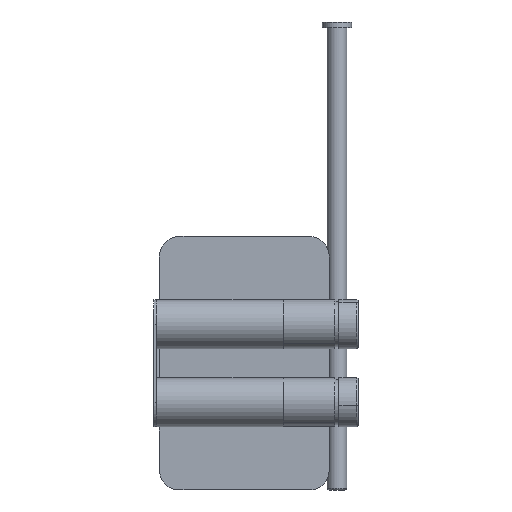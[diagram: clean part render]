
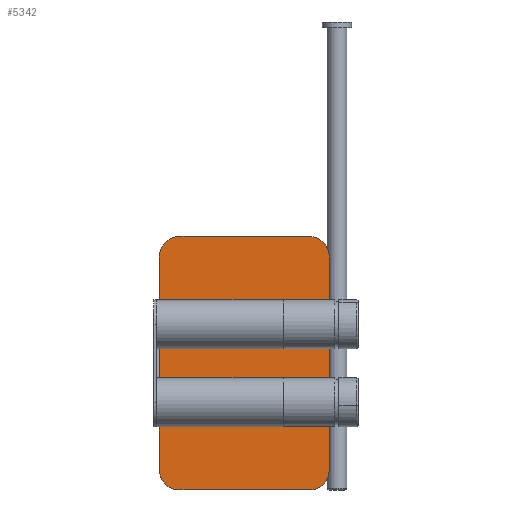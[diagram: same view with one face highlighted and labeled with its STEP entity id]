
A CAD part, front view. The second image highlights one B-rep face of the part: STEP entity #5342.
In plain terms, the highlighted planar face has unit normal (0, -1, 0).
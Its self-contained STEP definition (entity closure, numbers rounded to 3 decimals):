
#2 = DIRECTION ( 'NONE',  ( 0., 0., -1. ) ) ;
#606 = CARTESIAN_POINT ( 'NONE',  ( 100.397, -1.5, -87. ) ) ;
#791 = DIRECTION ( 'NONE',  ( 0., -1., 0. ) ) ;
#803 = DIRECTION ( 'NONE',  ( 0., -1., 0. ) ) ;
#877 = CIRCLE ( 'NONE', #8111, 10. ) ;
#901 = ORIENTED_EDGE ( 'NONE', *, *, #6050, .F. ) ;
#911 = CARTESIAN_POINT ( 'NONE',  ( 20., -1.5, 0. ) ) ;
#1089 = CARTESIAN_POINT ( 'NONE',  ( 130., -1.5, -10. ) ) ;
#1199 = CARTESIAN_POINT ( 'NONE',  ( 83.466, -1.5, -87. ) ) ;
#1309 = B_SPLINE_CURVE_WITH_KNOTS ( 'NONE', 3,
 ( #10938, #1199, #5231, #6180 ),
 .UNSPECIFIED., .F., .F.,
 ( 4, 4 ),
 ( 0., 1. ),
 .UNSPECIFIED. ) ;
#1626 = DIRECTION ( 'NONE',  ( 0., -1., 0. ) ) ;
#1660 = VERTEX_POINT ( 'NONE', #8381 ) ;
#1694 = CARTESIAN_POINT ( 'NONE',  ( 130., -1.5, -87. ) ) ;
#1706 = CARTESIAN_POINT ( 'NONE',  ( 0., -1.5, 0. ) ) ;
#1945 = DIRECTION ( 'NONE',  ( 0., 0., -1. ) ) ;
#2351 = ORIENTED_EDGE ( 'NONE', *, *, #8437, .T. ) ;
#2442 = ORIENTED_EDGE ( 'NONE', *, *, #10664, .F. ) ;
#2486 = CARTESIAN_POINT ( 'NONE',  ( 140., -1.5, -10. ) ) ;
#2774 = CARTESIAN_POINT ( 'NONE',  ( 10., -1.5, -87. ) ) ;
#2836 = LINE ( 'NONE', #2774, #6223 ) ;
#2925 = VERTEX_POINT ( 'NONE', #606 ) ;
#2968 = CARTESIAN_POINT ( 'NONE',  ( 140., -1.5, -77. ) ) ;
#3103 = EDGE_CURVE ( 'NONE', #9703, #9873, #12242, .T. ) ;
#3164 = VERTEX_POINT ( 'NONE', #5963 ) ;
#3314 = ORIENTED_EDGE ( 'NONE', *, *, #10106, .F. ) ;
#3568 = FACE_OUTER_BOUND ( 'NONE', #6073, .T. ) ;
#3703 = ORIENTED_EDGE ( 'NONE', *, *, #5527, .F. ) ;
#3757 = AXIS2_PLACEMENT_3D ( 'NONE', #3899, #803, #7859 ) ;
#3899 = CARTESIAN_POINT ( 'NONE',  ( 20., -1.5, -77. ) ) ;
#3944 = DIRECTION ( 'NONE',  ( 0., 0., -1. ) ) ;
#4409 = LINE ( 'NONE', #7452, #4567 ) ;
#4567 = VECTOR ( 'NONE', #7391, 1000. ) ;
#4621 = EDGE_CURVE ( 'NONE', #2925, #3164, #1309, .T. ) ;
#4625 = DIRECTION ( 'NONE',  ( 1., 0., 0. ) ) ;
#4724 = ORIENTED_EDGE ( 'NONE', *, *, #4621, .F. ) ;
#5166 = CARTESIAN_POINT ( 'NONE',  ( 20., -1.5, -87. ) ) ;
#5231 = CARTESIAN_POINT ( 'NONE',  ( 66.534, -1.5, -87. ) ) ;
#5342 = ADVANCED_FACE ( 'NONE', ( #3568 ), #7519, .T. ) ;
#5527 = EDGE_CURVE ( 'NONE', #9180, #11374, #11792, .T. ) ;
#5835 = DIRECTION ( 'NONE',  ( 0., -1., 0. ) ) ;
#5963 = CARTESIAN_POINT ( 'NONE',  ( 49.603, -1.5, -87. ) ) ;
#6050 = EDGE_CURVE ( 'NONE', #7628, #7970, #11558, .T. ) ;
#6073 = EDGE_LOOP ( 'NONE', ( #3314, #7881, #2442, #4724, #6837, #9900, #3703, #12805, #901, #2351 ) ) ;
#6180 = CARTESIAN_POINT ( 'NONE',  ( 49.603, -1.5, -87. ) ) ;
#6223 = VECTOR ( 'NONE', #6718, 1000. ) ;
#6313 = CARTESIAN_POINT ( 'NONE',  ( 10., -1.5, 0. ) ) ;
#6552 = CARTESIAN_POINT ( 'NONE',  ( 10., -1.5, -77. ) ) ;
#6718 = DIRECTION ( 'NONE',  ( -1., 0., 0. ) ) ;
#6753 = CARTESIAN_POINT ( 'NONE',  ( 130., -1.5, -77. ) ) ;
#6811 = DIRECTION ( 'NONE',  ( 0., 0., -1. ) ) ;
#6837 = ORIENTED_EDGE ( 'NONE', *, *, #6867, .F. ) ;
#6867 = EDGE_CURVE ( 'NONE', #7305, #2925, #4409, .T. ) ;
#6871 = CARTESIAN_POINT ( 'NONE',  ( 140., -1.5, 0. ) ) ;
#7072 = AXIS2_PLACEMENT_3D ( 'NONE', #1089, #5835, #3944 ) ;
#7305 = VERTEX_POINT ( 'NONE', #1694 ) ;
#7391 = DIRECTION ( 'NONE',  ( -1., 0., 0. ) ) ;
#7452 = CARTESIAN_POINT ( 'NONE',  ( 140., -1.5, -87. ) ) ;
#7519 = PLANE ( 'NONE',  #10783 ) ;
#7628 = VERTEX_POINT ( 'NONE', #911 ) ;
#7633 = EDGE_CURVE ( 'NONE', #9180, #7970, #11427, .T. ) ;
#7788 = VECTOR ( 'NONE', #10836, 1000. ) ;
#7859 = DIRECTION ( 'NONE',  ( 0., 0., -1. ) ) ;
#7881 = ORIENTED_EDGE ( 'NONE', *, *, #3103, .T. ) ;
#7970 = VERTEX_POINT ( 'NONE', #9762 ) ;
#8111 = AXIS2_PLACEMENT_3D ( 'NONE', #8639, #791, #2 ) ;
#8340 = EDGE_CURVE ( 'NONE', #7305, #11374, #9153, .T. ) ;
#8381 = CARTESIAN_POINT ( 'NONE',  ( 10., -1.5, -10. ) ) ;
#8407 = DIRECTION ( 'NONE',  ( 0., 0., 1. ) ) ;
#8437 = EDGE_CURVE ( 'NONE', #7628, #1660, #877, .T. ) ;
#8474 = LINE ( 'NONE', #6313, #10997 ) ;
#8639 = CARTESIAN_POINT ( 'NONE',  ( 20., -1.5, -10. ) ) ;
#8754 = AXIS2_PLACEMENT_3D ( 'NONE', #6753, #9620, #6811 ) ;
#9153 = CIRCLE ( 'NONE', #8754, 10. ) ;
#9180 = VERTEX_POINT ( 'NONE', #2486 ) ;
#9620 = DIRECTION ( 'NONE',  ( 0., -1., 0. ) ) ;
#9703 = VERTEX_POINT ( 'NONE', #6552 ) ;
#9762 = CARTESIAN_POINT ( 'NONE',  ( 130., -1.5, 0. ) ) ;
#9873 = VERTEX_POINT ( 'NONE', #5166 ) ;
#9900 = ORIENTED_EDGE ( 'NONE', *, *, #8340, .T. ) ;
#10106 = EDGE_CURVE ( 'NONE', #9703, #1660, #8474, .T. ) ;
#10338 = VECTOR ( 'NONE', #4625, 1000. ) ;
#10664 = EDGE_CURVE ( 'NONE', #3164, #9873, #2836, .T. ) ;
#10783 = AXIS2_PLACEMENT_3D ( 'NONE', #11475, #1626, #1945 ) ;
#10836 = DIRECTION ( 'NONE',  ( 0., 0., -1. ) ) ;
#10938 = CARTESIAN_POINT ( 'NONE',  ( 100.397, -1.5, -87. ) ) ;
#10997 = VECTOR ( 'NONE', #8407, 1000. ) ;
#11374 = VERTEX_POINT ( 'NONE', #2968 ) ;
#11427 = CIRCLE ( 'NONE', #7072, 10. ) ;
#11475 = CARTESIAN_POINT ( 'NONE',  ( 0., -1.5, 0. ) ) ;
#11558 = LINE ( 'NONE', #1706, #10338 ) ;
#11792 = LINE ( 'NONE', #6871, #7788 ) ;
#12242 = CIRCLE ( 'NONE', #3757, 10. ) ;
#12805 = ORIENTED_EDGE ( 'NONE', *, *, #7633, .T. ) ;
